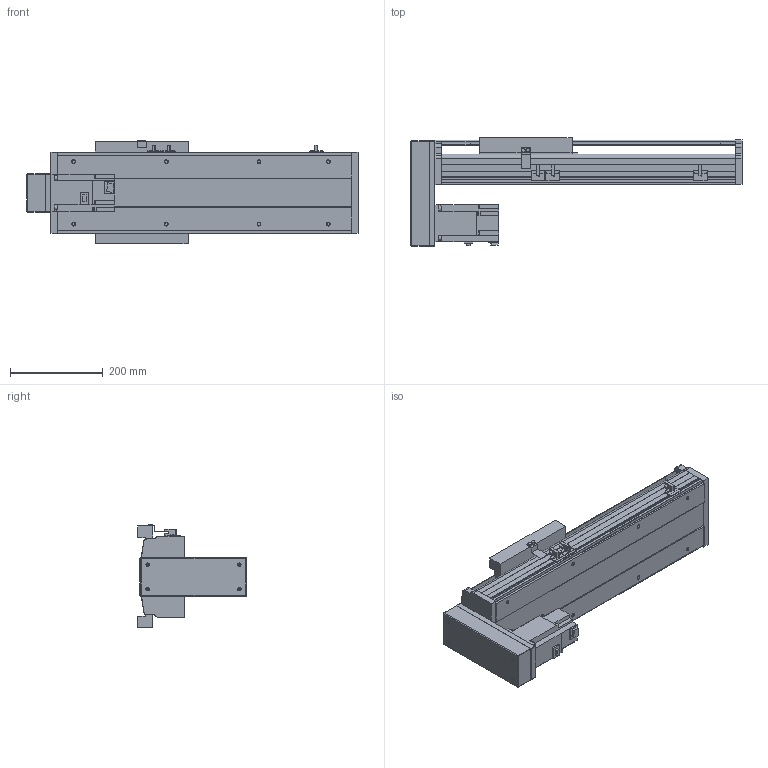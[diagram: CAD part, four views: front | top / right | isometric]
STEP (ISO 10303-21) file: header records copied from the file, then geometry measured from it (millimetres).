
FILE_DESCRIPTION(/* description */ ('STEP AP214'),/* implementation_level */ '2;1');
FILE_NAME(/* name */ 'PSS200-L10-S300-BM-T75-C1-N(0)',/* time_stamp */ '2022-06-06T04:44:22+02:00',/* author */ ('License CC BY-ND 4.0'),/* organization */ ('CADENAS'),/* preprocessor_version */ 'ST-DEVELOPER v18.102',/* originating_system */ 'PARTsolutions',/* authorisation */ ' ');
FILE_SCHEMA (('AUTOMOTIVE_DESIGN {1 0 10303 214 3 1 1}'));
Length unit declared in the file: millimetre
Products named in the file (8): PSS200-L10-S300-BM-T75-C1-N(0); PSS200-S300-BM-N_S; T75-p1; PSS200BM-N_h; PSS200-N_sensor; PSS200-BM-C1-N_sl; PSS200-N_Q; PSS200-S300-BM-C1-N_body
Assembly tree (9 placements, depth 2):
  PSS200-L10-S300-BM-T75-C1-N(0)
    PSS200-S300-BM-N_S
    T75-p1
    PSS200BM-N_h
    PSS200-N_sensor  x3
    PSS200-BM-C1-N_sl
    PSS200-N_Q
    PSS200-S300-BM-C1-N_body
Bounding box: 716.85 x 234.45 x 223.86 mm (x, y, z)
Volume: 6133565.4 mm3; surface area: 1261820.6 mm2
Topology: 9 solids, 9 shells, 590 faces, 1577 edges, 1046 vertices
Faces by surface type: plane 452, cylinder 118, cone 16, sphere 4
Full cylindrical faces by diameter (mm): 4 x2, 4.5 x4, 6 x7, 6.647 x12, 7.4 x4, 8 x8, 10 x6, 25 x1, 40 x1, 67 x1
Entity records: 16420 total; most frequent: CARTESIAN_POINT 2853, DIRECTION 2707, ORIENTED_EDGE 2698, EDGE_CURVE 1349, LINE 1071, VECTOR 1071, VERTEX_POINT 932, AXIS2_PLACEMENT_3D 818
